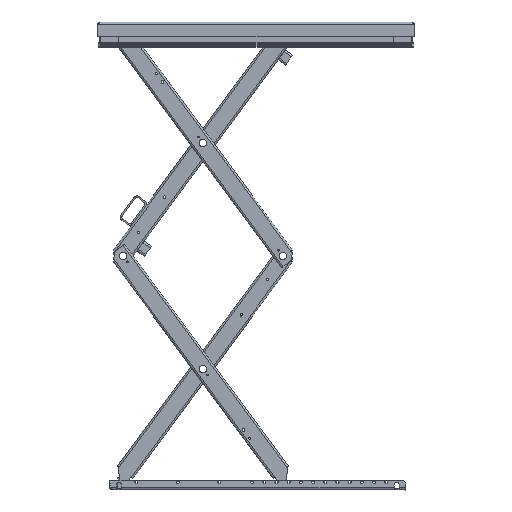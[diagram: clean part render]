
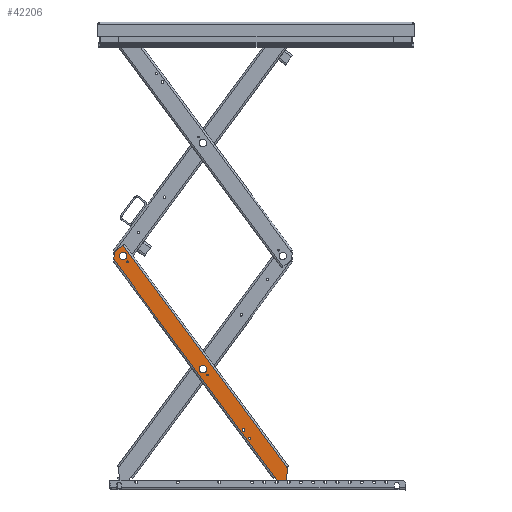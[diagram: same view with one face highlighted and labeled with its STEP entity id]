
A CAD part, front view. The second image highlights one B-rep face of the part: STEP entity #42206.
In plain terms, the highlighted planar face has unit normal (0, -1, 0) as drawn and (1, 0, 0) by its records, which use the part's own axes.
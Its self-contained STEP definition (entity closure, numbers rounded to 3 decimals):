
#2851=FACE_BOUND('',#7733,.T.);
#2852=FACE_BOUND('',#7734,.T.);
#2853=FACE_BOUND('',#7735,.T.);
#2854=FACE_BOUND('',#7736,.T.);
#2855=FACE_BOUND('',#7737,.T.);
#2856=FACE_BOUND('',#7738,.T.);
#2857=FACE_BOUND('',#7739,.T.);
#3564=CIRCLE('',#44961,4.);
#3594=CIRCLE('',#45000,4.);
#3613=CIRCLE('',#45037,5.25);
#3614=CIRCLE('',#45039,5.);
#3615=CIRCLE('',#45042,5.);
#3616=CIRCLE('',#45049,15.15);
#3617=CIRCLE('',#45052,15.15);
#3618=CIRCLE('',#45055,5.1);
#3619=CIRCLE('',#45058,3.7);
#3620=CIRCLE('',#45061,3.7);
#3621=CIRCLE('',#45064,3.7);
#3622=CIRCLE('',#45069,5.);
#3623=CIRCLE('',#45072,5.);
#5198=FACE_OUTER_BOUND('',#7732,.T.);
#7732=EDGE_LOOP('',(#30990,#30991,#30992,#30993,#30994,#30995,#30996,#30997,
#30998,#30999,#31000,#31001,#31002,#31003,#31004));
#7733=EDGE_LOOP('',(#31005));
#7734=EDGE_LOOP('',(#31006));
#7735=EDGE_LOOP('',(#31007));
#7736=EDGE_LOOP('',(#31008));
#7737=EDGE_LOOP('',(#31009));
#7738=EDGE_LOOP('',(#31010));
#7739=EDGE_LOOP('',(#31011));
#10588=LINE('',#62473,#14540);
#10616=LINE('',#62644,#14568);
#10635=LINE('',#62763,#14587);
#10637=LINE('',#62780,#14589);
#10645=LINE('',#62828,#14597);
#10648=LINE('',#62840,#14600);
#10650=LINE('',#62847,#14602);
#10661=LINE('',#62908,#14613);
#10667=LINE('',#62924,#14619);
#14540=VECTOR('',#50473,2.343);
#14568=VECTOR('',#50577,55.669);
#14587=VECTOR('',#50640,2.343);
#14589=VECTOR('',#50646,1111.);
#14597=VECTOR('',#50672,1134.);
#14600=VECTOR('',#50687,27.385);
#14602=VECTOR('',#50695,13.929);
#14613=VECTOR('',#50760,35.);
#14619=VECTOR('',#50784,39.929);
#18567=VERTEX_POINT('',#62460);
#18568=VERTEX_POINT('',#62461);
#18572=VERTEX_POINT('',#62471);
#18623=VERTEX_POINT('',#62637);
#18624=VERTEX_POINT('',#62638);
#18625=VERTEX_POINT('',#62643);
#18626=VERTEX_POINT('',#62647);
#18654=VERTEX_POINT('',#62769);
#18661=VERTEX_POINT('',#62826);
#18662=VERTEX_POINT('',#62831);
#18663=VERTEX_POINT('',#62834);
#18664=VERTEX_POINT('',#62835);
#18665=VERTEX_POINT('',#62842);
#18666=VERTEX_POINT('',#62846);
#18667=VERTEX_POINT('',#62857);
#18668=VERTEX_POINT('',#62861);
#18669=VERTEX_POINT('',#62865);
#18670=VERTEX_POINT('',#62869);
#18671=VERTEX_POINT('',#62873);
#18672=VERTEX_POINT('',#62877);
#18674=VERTEX_POINT('',#62901);
#18675=VERTEX_POINT('',#62906);
#23169=EDGE_CURVE('',#18567,#18568,#3564,.T.);
#23175=EDGE_CURVE('',#18572,#18567,#10588,.T.);
#23233=EDGE_CURVE('',#18623,#18624,#3594,.T.);
#23236=EDGE_CURVE('',#18625,#18624,#10616,.T.);
#23273=EDGE_CURVE('',#18623,#18626,#10635,.T.);
#23277=EDGE_CURVE('',#18654,#18572,#10637,.T.);
#23290=EDGE_CURVE('',#18626,#18661,#10645,.T.);
#23291=EDGE_CURVE('',#18662,#18662,#3613,.T.);
#23292=EDGE_CURVE('',#18663,#18664,#3614,.T.);
#23295=EDGE_CURVE('',#18663,#18568,#10648,.T.);
#23296=EDGE_CURVE('',#18625,#18665,#3615,.T.);
#23298=EDGE_CURVE('',#18665,#18666,#10650,.T.);
#23303=EDGE_CURVE('',#18667,#18667,#3616,.T.);
#23304=EDGE_CURVE('',#18668,#18668,#3617,.T.);
#23305=EDGE_CURVE('',#18669,#18669,#3618,.T.);
#23306=EDGE_CURVE('',#18670,#18670,#3619,.T.);
#23307=EDGE_CURVE('',#18671,#18671,#3620,.T.);
#23308=EDGE_CURVE('',#18672,#18672,#3621,.T.);
#23314=EDGE_CURVE('',#18654,#18674,#3622,.T.);
#23317=EDGE_CURVE('',#18674,#18675,#10661,.T.);
#23318=EDGE_CURVE('',#18675,#18666,#3623,.T.);
#23325=EDGE_CURVE('',#18661,#18664,#10667,.T.);
#30990=ORIENTED_EDGE('',*,*,#23169,.F.);
#30991=ORIENTED_EDGE('',*,*,#23175,.F.);
#30992=ORIENTED_EDGE('',*,*,#23277,.F.);
#30993=ORIENTED_EDGE('',*,*,#23314,.T.);
#30994=ORIENTED_EDGE('',*,*,#23317,.T.);
#30995=ORIENTED_EDGE('',*,*,#23318,.T.);
#30996=ORIENTED_EDGE('',*,*,#23298,.F.);
#30997=ORIENTED_EDGE('',*,*,#23296,.F.);
#30998=ORIENTED_EDGE('',*,*,#23236,.T.);
#30999=ORIENTED_EDGE('',*,*,#23233,.F.);
#31000=ORIENTED_EDGE('',*,*,#23273,.T.);
#31001=ORIENTED_EDGE('',*,*,#23290,.T.);
#31002=ORIENTED_EDGE('',*,*,#23325,.T.);
#31003=ORIENTED_EDGE('',*,*,#23292,.F.);
#31004=ORIENTED_EDGE('',*,*,#23295,.T.);
#31005=ORIENTED_EDGE('',*,*,#23291,.T.);
#31006=ORIENTED_EDGE('',*,*,#23308,.T.);
#31007=ORIENTED_EDGE('',*,*,#23307,.T.);
#31008=ORIENTED_EDGE('',*,*,#23306,.T.);
#31009=ORIENTED_EDGE('',*,*,#23305,.T.);
#31010=ORIENTED_EDGE('',*,*,#23304,.T.);
#31011=ORIENTED_EDGE('',*,*,#23303,.T.);
#40709=PLANE('',#45079);
#42206=ADVANCED_FACE('',(#5198,#2851,#2852,#2853,#2854,#2855,#2856,#2857),
#40709,.T.);
#44961=AXIS2_PLACEMENT_3D('',#62462,#50463,#50464);
#45000=AXIS2_PLACEMENT_3D('',#62639,#50571,#50572);
#45037=AXIS2_PLACEMENT_3D('',#62832,#50677,#50678);
#45039=AXIS2_PLACEMENT_3D('',#62836,#50681,#50682);
#45042=AXIS2_PLACEMENT_3D('',#62843,#50690,#50691);
#45049=AXIS2_PLACEMENT_3D('',#62858,#50710,#50711);
#45052=AXIS2_PLACEMENT_3D('',#62862,#50716,#50717);
#45055=AXIS2_PLACEMENT_3D('',#62866,#50722,#50723);
#45058=AXIS2_PLACEMENT_3D('',#62870,#50728,#50729);
#45061=AXIS2_PLACEMENT_3D('',#62874,#50734,#50735);
#45064=AXIS2_PLACEMENT_3D('',#62878,#50740,#50741);
#45069=AXIS2_PLACEMENT_3D('',#62903,#50754,#50755);
#45072=AXIS2_PLACEMENT_3D('',#62910,#50763,#50764);
#45079=AXIS2_PLACEMENT_3D('',#62923,#50782,#50783);
#50463=DIRECTION('center_axis',(-1.,0.,0.));
#50464=DIRECTION('ref_axis',(0.,-0.924,0.383));
#50473=DIRECTION('',(0.,0.,1.));
#50571=DIRECTION('center_axis',(-1.,0.,0.));
#50572=DIRECTION('ref_axis',(0.,0.924,-0.383));
#50577=DIRECTION('',(0.,0.707,0.707));
#50640=DIRECTION('',(0.,0.,1.));
#50646=DIRECTION('',(0.,0.,1.));
#50672=DIRECTION('',(0.,0.,1.));
#50677=DIRECTION('center_axis',(-1.,0.,0.));
#50678=DIRECTION('ref_axis',(0.,1.,0.));
#50681=DIRECTION('center_axis',(-1.,0.,0.));
#50682=DIRECTION('ref_axis',(0.,-0.383,0.924));
#50687=DIRECTION('',(0.,-0.707,-0.707));
#50690=DIRECTION('center_axis',(-1.,0.,0.));
#50691=DIRECTION('ref_axis',(0.,0.383,-0.924));
#50695=DIRECTION('',(0.,-1.,0.));
#50710=DIRECTION('center_axis',(-1.,0.,0.));
#50711=DIRECTION('ref_axis',(0.,0.,-1.));
#50716=DIRECTION('center_axis',(-1.,0.,0.));
#50717=DIRECTION('ref_axis',(0.,0.,-1.));
#50722=DIRECTION('center_axis',(-1.,0.,0.));
#50723=DIRECTION('ref_axis',(0.,0.,-1.));
#50728=DIRECTION('center_axis',(-1.,0.,0.));
#50729=DIRECTION('ref_axis',(0.,0.,-1.));
#50734=DIRECTION('center_axis',(-1.,0.,0.));
#50735=DIRECTION('ref_axis',(0.,0.,-1.));
#50740=DIRECTION('center_axis',(-1.,0.,0.));
#50741=DIRECTION('ref_axis',(0.,0.,-1.));
#50754=DIRECTION('center_axis',(-1.,0.,0.));
#50755=DIRECTION('ref_axis',(0.,0.,1.));
#50760=DIRECTION('',(0.,0.,-1.));
#50763=DIRECTION('center_axis',(1.,0.,0.));
#50764=DIRECTION('ref_axis',(0.,0.,1.));
#50782=DIRECTION('center_axis',(1.,0.,0.));
#50783=DIRECTION('ref_axis',(0.,0.,-1.));
#50784=DIRECTION('',(0.,-1.,0.));
#62460=CARTESIAN_POINT('',(20.,-32.,1156.343));
#62461=CARTESIAN_POINT('',(20.,-30.828,1159.172));
#62462=CARTESIAN_POINT('Origin',(20.,-28.,1156.343));
#62471=CARTESIAN_POINT('',(20.,-32.,1154.));
#62473=CARTESIAN_POINT('',(20.,-32.,0.));
#62637=CARTESIAN_POINT('',(20.,32.,43.657));
#62638=CARTESIAN_POINT('',(20.,30.828,40.828));
#62639=CARTESIAN_POINT('Origin',(20.,28.,43.657));
#62643=CARTESIAN_POINT('',(20.,-8.536,1.464));
#62644=CARTESIAN_POINT('',(20.,0.5,10.5));
#62647=CARTESIAN_POINT('',(20.,32.,46.));
#62763=CARTESIAN_POINT('',(20.,32.,0.));
#62769=CARTESIAN_POINT('',(20.,-32.,43.));
#62780=CARTESIAN_POINT('',(20.,-32.,0.));
#62826=CARTESIAN_POINT('',(20.,32.,1180.));
#62828=CARTESIAN_POINT('',(20.,32.,0.));
#62831=CARTESIAN_POINT('',(20.,-14.75,278.));
#62832=CARTESIAN_POINT('Origin',(20.,-20.,278.));
#62834=CARTESIAN_POINT('',(20.,-11.464,1178.536));
#62835=CARTESIAN_POINT('',(20.,-7.929,1180.));
#62836=CARTESIAN_POINT('Origin',(20.,-7.929,1175.));
#62840=CARTESIAN_POINT('',(20.,-294.5,895.5));
#62842=CARTESIAN_POINT('',(20.,-12.071,0.));
#62843=CARTESIAN_POINT('Origin',(20.,-12.071,5.));
#62846=CARTESIAN_POINT('',(20.,-26.,0.));
#62847=CARTESIAN_POINT('',(20.,16.,0.));
#62857=CARTESIAN_POINT('',(20.,-5.,592.65));
#62858=CARTESIAN_POINT('Origin',(20.,-5.,577.5));
#62861=CARTESIAN_POINT('',(20.,7.,1160.15));
#62862=CARTESIAN_POINT('Origin',(20.,7.,1145.));
#62865=CARTESIAN_POINT('',(20.,-17.,15.1));
#62866=CARTESIAN_POINT('Origin',(20.,-17.,10.));
#62869=CARTESIAN_POINT('',(20.,7.,1118.7));
#62870=CARTESIAN_POINT('Origin',(20.,7.,1115.));
#62873=CARTESIAN_POINT('',(20.,-5.,551.2));
#62874=CARTESIAN_POINT('Origin',(20.,-5.,547.5));
#62877=CARTESIAN_POINT('',(20.,-20.,238.7));
#62878=CARTESIAN_POINT('Origin',(20.,-20.,235.));
#62901=CARTESIAN_POINT('',(20.,-31.,40.));
#62903=CARTESIAN_POINT('Origin',(20.,-36.,40.));
#62906=CARTESIAN_POINT('',(20.,-31.,5.));
#62908=CARTESIAN_POINT('',(20.,-31.,20.));
#62910=CARTESIAN_POINT('Origin',(20.,-26.,5.));
#62923=CARTESIAN_POINT('Origin',(20.,32.,0.));
#62924=CARTESIAN_POINT('',(20.,16.,1180.));
